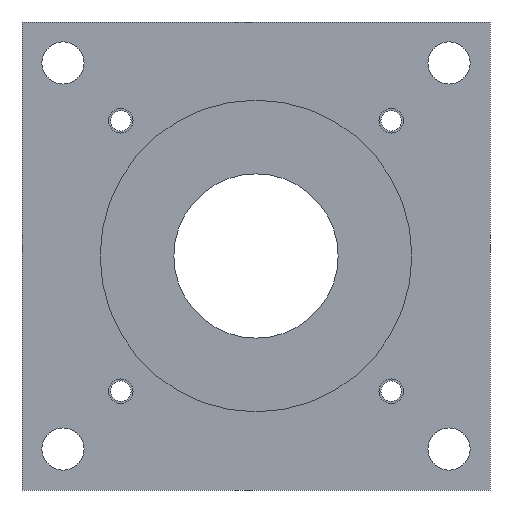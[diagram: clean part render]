
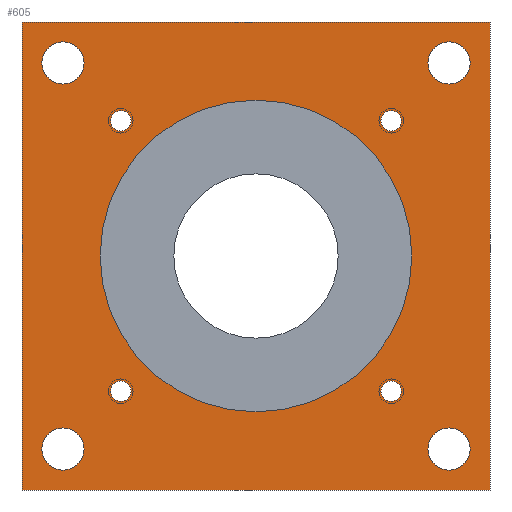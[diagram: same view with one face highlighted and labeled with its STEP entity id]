
A CAD part, left-side view. The second image highlights one B-rep face of the part: STEP entity #605.
In plain terms, the highlighted planar face has unit normal (-1, 0, 0).
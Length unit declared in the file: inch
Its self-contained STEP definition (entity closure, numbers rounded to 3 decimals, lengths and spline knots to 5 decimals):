
#6=DIRECTION('',(0.,-1.,0.));
#7=VECTOR('',#6,2.25);
#8=CARTESIAN_POINT('',(-0.0845,1.125,-1.125));
#9=LINE('',#8,#7);
#116=DIRECTION('',(0.,0.,1.));
#117=VECTOR('',#116,2.25);
#118=CARTESIAN_POINT('',(-0.0845,-1.125,-1.125));
#119=LINE('',#118,#117);
#120=DIRECTION('',(0.,0.,1.));
#121=VECTOR('',#120,2.25);
#122=CARTESIAN_POINT('',(-0.0845,1.125,-1.125));
#123=LINE('',#122,#121);
#124=CARTESIAN_POINT('',(-0.0845,-0.928,0.928));
#125=DIRECTION('',(-1.,0.,0.));
#126=DIRECTION('',(0.,-1.,0.));
#127=AXIS2_PLACEMENT_3D('',#124,#125,#126);
#129=CARTESIAN_POINT('',(-0.0845,-0.928,0.928));
#130=DIRECTION('',(-1.,0.,0.));
#131=DIRECTION('',(0.,1.,0.));
#132=AXIS2_PLACEMENT_3D('',#129,#130,#131);
#134=CARTESIAN_POINT('',(-0.0845,-0.928,-0.928));
#135=DIRECTION('',(1.,0.,0.));
#136=DIRECTION('',(0.,-1.,0.));
#137=AXIS2_PLACEMENT_3D('',#134,#135,#136);
#139=CARTESIAN_POINT('',(-0.0845,-0.928,-0.928));
#140=DIRECTION('',(1.,0.,0.));
#141=DIRECTION('',(0.,1.,0.));
#142=AXIS2_PLACEMENT_3D('',#139,#140,#141);
#144=CARTESIAN_POINT('',(-0.0845,0.928,0.928));
#145=DIRECTION('',(1.,0.,0.));
#146=DIRECTION('',(0.,1.,0.));
#147=AXIS2_PLACEMENT_3D('',#144,#145,#146);
#149=CARTESIAN_POINT('',(-0.0845,0.928,0.928));
#150=DIRECTION('',(1.,0.,0.));
#151=DIRECTION('',(0.,-1.,0.));
#152=AXIS2_PLACEMENT_3D('',#149,#150,#151);
#154=CARTESIAN_POINT('',(-0.0845,0.928,-0.928));
#155=DIRECTION('',(-1.,0.,0.));
#156=DIRECTION('',(0.,1.,0.));
#157=AXIS2_PLACEMENT_3D('',#154,#155,#156);
#159=CARTESIAN_POINT('',(-0.0845,0.928,-0.928));
#160=DIRECTION('',(-1.,0.,0.));
#161=DIRECTION('',(0.,-1.,0.));
#162=AXIS2_PLACEMENT_3D('',#159,#160,#161);
#164=CARTESIAN_POINT('',(-0.0845,0.65,0.65));
#165=DIRECTION('',(1.,0.,0.));
#166=DIRECTION('',(0.,-1.,0.));
#167=AXIS2_PLACEMENT_3D('',#164,#165,#166);
#169=CARTESIAN_POINT('',(-0.0845,0.65,0.65));
#170=DIRECTION('',(1.,0.,0.));
#171=DIRECTION('',(0.,1.,0.));
#172=AXIS2_PLACEMENT_3D('',#169,#170,#171);
#174=CARTESIAN_POINT('',(-0.0845,0.65,-0.65));
#175=DIRECTION('',(-1.,0.,0.));
#176=DIRECTION('',(0.,-1.,0.));
#177=AXIS2_PLACEMENT_3D('',#174,#175,#176);
#179=CARTESIAN_POINT('',(-0.0845,0.65,-0.65));
#180=DIRECTION('',(-1.,0.,0.));
#181=DIRECTION('',(0.,1.,0.));
#182=AXIS2_PLACEMENT_3D('',#179,#180,#181);
#184=CARTESIAN_POINT('',(-0.0845,-0.65,0.65));
#185=DIRECTION('',(-1.,0.,0.));
#186=DIRECTION('',(0.,1.,0.));
#187=AXIS2_PLACEMENT_3D('',#184,#185,#186);
#189=CARTESIAN_POINT('',(-0.0845,-0.65,0.65));
#190=DIRECTION('',(-1.,0.,0.));
#191=DIRECTION('',(0.,-1.,0.));
#192=AXIS2_PLACEMENT_3D('',#189,#190,#191);
#194=CARTESIAN_POINT('',(-0.0845,-0.65,-0.65));
#195=DIRECTION('',(1.,0.,0.));
#196=DIRECTION('',(0.,1.,0.));
#197=AXIS2_PLACEMENT_3D('',#194,#195,#196);
#199=CARTESIAN_POINT('',(-0.0845,-0.65,-0.65));
#200=DIRECTION('',(1.,0.,0.));
#201=DIRECTION('',(0.,-1.,0.));
#202=AXIS2_PLACEMENT_3D('',#199,#200,#201);
#204=CARTESIAN_POINT('',(-0.0845,0.,0.));
#205=DIRECTION('',(-1.,0.,0.));
#206=DIRECTION('',(0.,1.,0.));
#207=AXIS2_PLACEMENT_3D('',#204,#205,#206);
#209=CARTESIAN_POINT('',(-0.0845,0.,0.));
#210=DIRECTION('',(-1.,0.,0.));
#211=DIRECTION('',(0.,-1.,0.));
#212=AXIS2_PLACEMENT_3D('',#209,#210,#211);
#226=DIRECTION('',(0.,-1.,0.));
#227=VECTOR('',#226,2.25);
#228=CARTESIAN_POINT('',(-0.0845,1.125,1.125));
#229=LINE('',#228,#227);
#331=CARTESIAN_POINT('',(-0.0845,1.125,-1.125));
#333=VERTEX_POINT('',#331);
#334=CARTESIAN_POINT('',(-0.0845,-1.125,-1.125));
#335=VERTEX_POINT('',#334);
#339=CARTESIAN_POINT('',(-0.0845,1.125,1.125));
#341=VERTEX_POINT('',#339);
#342=CARTESIAN_POINT('',(-0.0845,-1.125,1.125));
#343=VERTEX_POINT('',#342);
#350=CARTESIAN_POINT('',(-0.0845,-1.02956,0.928));
#351=CARTESIAN_POINT('',(-0.0845,-0.82644,0.928));
#352=VERTEX_POINT('',#350);
#353=VERTEX_POINT('',#351);
#358=CARTESIAN_POINT('',(-0.0845,-1.02956,-0.928));
#359=CARTESIAN_POINT('',(-0.0845,-0.82644,-0.928));
#360=VERTEX_POINT('',#358);
#361=VERTEX_POINT('',#359);
#366=CARTESIAN_POINT('',(-0.0845,1.02956,0.928));
#367=CARTESIAN_POINT('',(-0.0845,0.82644,0.928));
#368=VERTEX_POINT('',#366);
#369=VERTEX_POINT('',#367);
#374=CARTESIAN_POINT('',(-0.0845,1.02956,-0.928));
#375=CARTESIAN_POINT('',(-0.0845,0.82644,-0.928));
#376=VERTEX_POINT('',#374);
#377=VERTEX_POINT('',#375);
#382=CARTESIAN_POINT('',(-0.0845,0.60079,0.65));
#383=CARTESIAN_POINT('',(-0.0845,0.69921,0.65));
#384=VERTEX_POINT('',#382);
#385=VERTEX_POINT('',#383);
#390=CARTESIAN_POINT('',(-0.0845,0.60079,-0.65));
#391=CARTESIAN_POINT('',(-0.0845,0.69921,-0.65));
#392=VERTEX_POINT('',#390);
#393=VERTEX_POINT('',#391);
#398=CARTESIAN_POINT('',(-0.0845,-0.60079,0.65));
#399=CARTESIAN_POINT('',(-0.0845,-0.69921,0.65));
#400=VERTEX_POINT('',#398);
#401=VERTEX_POINT('',#399);
#406=CARTESIAN_POINT('',(-0.0845,-0.60079,-0.65));
#407=CARTESIAN_POINT('',(-0.0845,-0.69921,-0.65));
#408=VERTEX_POINT('',#406);
#409=VERTEX_POINT('',#407);
#422=CARTESIAN_POINT('',(-0.0845,0.749,0.));
#423=CARTESIAN_POINT('',(-0.0845,-0.749,0.));
#424=VERTEX_POINT('',#422);
#425=VERTEX_POINT('',#423);
#539=CARTESIAN_POINT('',(-0.0845,1.125,-1.125));
#540=DIRECTION('',(-1.,0.,0.));
#541=DIRECTION('',(0.,-1.,0.));
#542=AXIS2_PLACEMENT_3D('',#539,#540,#541);
#543=PLANE('',#542);
#544=ORIENTED_EDGE('',*,*,#433,.F.);
#545=ORIENTED_EDGE('',*,*,#452,.T.);
#547=ORIENTED_EDGE('',*,*,#546,.T.);
#548=ORIENTED_EDGE('',*,*,#531,.F.);
#549=EDGE_LOOP('',(#544,#545,#547,#548));
#550=FACE_OUTER_BOUND('',#549,.F.);
#552=ORIENTED_EDGE('',*,*,#551,.T.);
#554=ORIENTED_EDGE('',*,*,#553,.T.);
#555=EDGE_LOOP('',(#552,#554));
#556=FACE_BOUND('',#555,.F.);
#558=ORIENTED_EDGE('',*,*,#557,.F.);
#560=ORIENTED_EDGE('',*,*,#559,.F.);
#561=EDGE_LOOP('',(#558,#560));
#562=FACE_BOUND('',#561,.F.);
#564=ORIENTED_EDGE('',*,*,#563,.F.);
#566=ORIENTED_EDGE('',*,*,#565,.F.);
#567=EDGE_LOOP('',(#564,#566));
#568=FACE_BOUND('',#567,.F.);
#570=ORIENTED_EDGE('',*,*,#569,.T.);
#572=ORIENTED_EDGE('',*,*,#571,.T.);
#573=EDGE_LOOP('',(#570,#572));
#574=FACE_BOUND('',#573,.F.);
#576=ORIENTED_EDGE('',*,*,#575,.F.);
#578=ORIENTED_EDGE('',*,*,#577,.F.);
#579=EDGE_LOOP('',(#576,#578));
#580=FACE_BOUND('',#579,.F.);
#582=ORIENTED_EDGE('',*,*,#581,.T.);
#584=ORIENTED_EDGE('',*,*,#583,.T.);
#585=EDGE_LOOP('',(#582,#584));
#586=FACE_BOUND('',#585,.F.);
#588=ORIENTED_EDGE('',*,*,#587,.T.);
#590=ORIENTED_EDGE('',*,*,#589,.T.);
#591=EDGE_LOOP('',(#588,#590));
#592=FACE_BOUND('',#591,.F.);
#594=ORIENTED_EDGE('',*,*,#593,.F.);
#596=ORIENTED_EDGE('',*,*,#595,.F.);
#597=EDGE_LOOP('',(#594,#596));
#598=FACE_BOUND('',#597,.F.);
#600=ORIENTED_EDGE('',*,*,#599,.T.);
#602=ORIENTED_EDGE('',*,*,#601,.T.);
#603=EDGE_LOOP('',(#600,#602));
#604=FACE_BOUND('',#603,.F.);
#605=ADVANCED_FACE('',(#550,#556,#562,#568,#574,#580,#586,#592,#598,#604),#543,
.T.);
#128=CIRCLE('',#127,0.10156);
#133=CIRCLE('',#132,0.10156);
#138=CIRCLE('',#137,0.10156);
#143=CIRCLE('',#142,0.10156);
#148=CIRCLE('',#147,0.10156);
#153=CIRCLE('',#152,0.10156);
#158=CIRCLE('',#157,0.10156);
#163=CIRCLE('',#162,0.10156);
#168=CIRCLE('',#167,0.04921);
#173=CIRCLE('',#172,0.04921);
#178=CIRCLE('',#177,0.04921);
#183=CIRCLE('',#182,0.04921);
#188=CIRCLE('',#187,0.04921);
#193=CIRCLE('',#192,0.04921);
#198=CIRCLE('',#197,0.04921);
#203=CIRCLE('',#202,0.04921);
#208=CIRCLE('',#207,0.749);
#213=CIRCLE('',#212,0.749);
#433=EDGE_CURVE('',#333,#335,#9,.T.);
#452=EDGE_CURVE('',#333,#341,#123,.T.);
#531=EDGE_CURVE('',#335,#343,#119,.T.);
#546=EDGE_CURVE('',#341,#343,#229,.T.);
#551=EDGE_CURVE('',#352,#353,#128,.T.);
#553=EDGE_CURVE('',#353,#352,#133,.T.);
#557=EDGE_CURVE('',#360,#361,#138,.T.);
#559=EDGE_CURVE('',#361,#360,#143,.T.);
#563=EDGE_CURVE('',#368,#369,#148,.T.);
#565=EDGE_CURVE('',#369,#368,#153,.T.);
#569=EDGE_CURVE('',#376,#377,#158,.T.);
#571=EDGE_CURVE('',#377,#376,#163,.T.);
#575=EDGE_CURVE('',#384,#385,#168,.T.);
#577=EDGE_CURVE('',#385,#384,#173,.T.);
#581=EDGE_CURVE('',#392,#393,#178,.T.);
#583=EDGE_CURVE('',#393,#392,#183,.T.);
#587=EDGE_CURVE('',#400,#401,#188,.T.);
#589=EDGE_CURVE('',#401,#400,#193,.T.);
#593=EDGE_CURVE('',#408,#409,#198,.T.);
#595=EDGE_CURVE('',#409,#408,#203,.T.);
#599=EDGE_CURVE('',#424,#425,#208,.T.);
#601=EDGE_CURVE('',#425,#424,#213,.T.);
